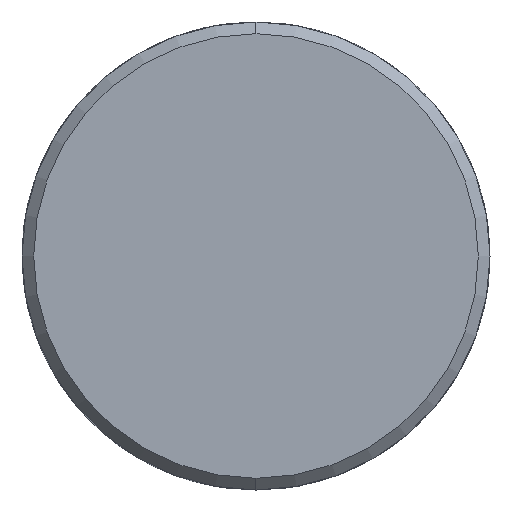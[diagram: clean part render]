
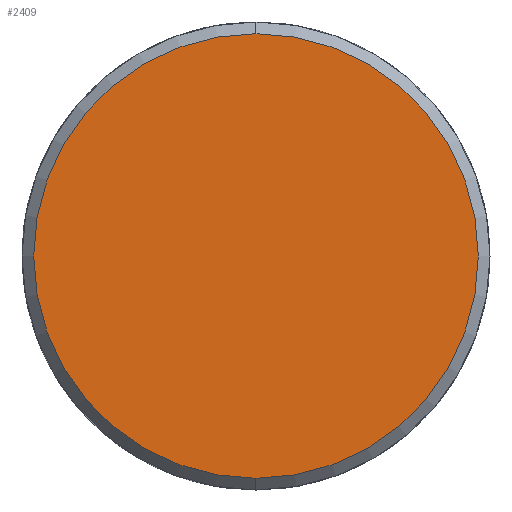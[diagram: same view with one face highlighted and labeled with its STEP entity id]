
A CAD part, left-side view. The second image highlights one B-rep face of the part: STEP entity #2409.
In plain terms, the highlighted planar face has unit normal (-1, 0, 0).
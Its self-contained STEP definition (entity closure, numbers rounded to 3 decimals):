
#1438 = EDGE_CURVE ( 'NONE', #3087, #5392, #3557, .T. ) ;
#1494 = EDGE_CURVE ( 'NONE', #5392, #3087, #2737, .T. ) ;
#1574 = AXIS2_PLACEMENT_3D ( 'NONE', #6541, #6539, #6530 ) ;
#1812 = EDGE_LOOP ( 'NONE', ( #2635, #6395 ) ) ;
#2409 = ADVANCED_FACE ( 'NONE', ( #4515 ), #3412, .T. ) ;
#2635 = ORIENTED_EDGE ( 'NONE', *, *, #1438, .F. ) ;
#2737 = CIRCLE ( 'NONE', #4151, 9.5 ) ;
#3087 = VERTEX_POINT ( 'NONE', #6024 ) ;
#3251 = DIRECTION ( 'NONE',  ( 0., 0., 1. ) ) ;
#3277 = DIRECTION ( 'NONE',  ( -1., 0., 0. ) ) ;
#3282 = CARTESIAN_POINT ( 'NONE',  ( 0., 0., 0. ) ) ;
#3412 = PLANE ( 'NONE',  #7631 ) ;
#3557 = CIRCLE ( 'NONE', #1574, 9.5 ) ;
#4151 = AXIS2_PLACEMENT_3D ( 'NONE', #6382, #6373, #6367 ) ;
#4515 = FACE_OUTER_BOUND ( 'NONE', #1812, .T. ) ;
#5392 = VERTEX_POINT ( 'NONE', #6793 ) ;
#6024 = CARTESIAN_POINT ( 'NONE',  ( 0., 0., -9.5 ) ) ;
#6367 = DIRECTION ( 'NONE',  ( 0., 0., -1. ) ) ;
#6373 = DIRECTION ( 'NONE',  ( 1., 0., 0. ) ) ;
#6382 = CARTESIAN_POINT ( 'NONE',  ( 0., 0., 0. ) ) ;
#6395 = ORIENTED_EDGE ( 'NONE', *, *, #1494, .F. ) ;
#6530 = DIRECTION ( 'NONE',  ( 0., 0., -1. ) ) ;
#6539 = DIRECTION ( 'NONE',  ( 1., 0., 0. ) ) ;
#6541 = CARTESIAN_POINT ( 'NONE',  ( 0., 0., 0. ) ) ;
#6793 = CARTESIAN_POINT ( 'NONE',  ( 0., 0., 9.5 ) ) ;
#7631 = AXIS2_PLACEMENT_3D ( 'NONE', #3282, #3277, #3251 ) ;
